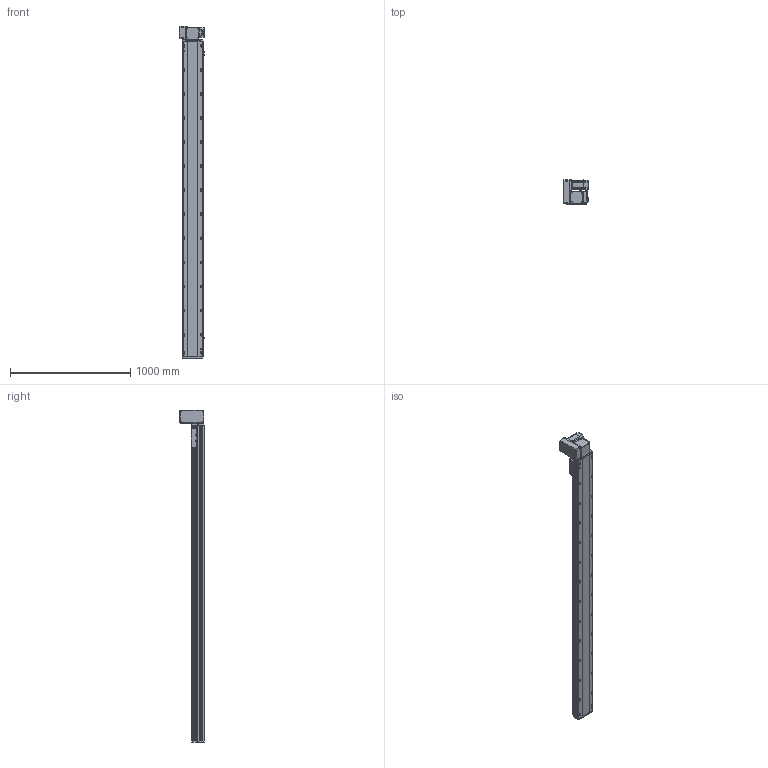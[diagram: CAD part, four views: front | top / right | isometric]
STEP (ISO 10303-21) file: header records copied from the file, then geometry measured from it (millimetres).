
FILE_DESCRIPTION (( 'STEP AP214' ), '1' );
FILE_NAME ('RTB17S-XX-2350-LW-M75-C4.STEP', '2025-12-12T01:12:38', ( '' ), ( '' ), 'SwSTEP 2.0', 'SolidWorks 2018', '' );
FILE_SCHEMA (( 'AUTOMOTIVE_DESIGN' ));
Length unit declared in the file: millimetre
Products named in the file (15): RTB22S-GY-018P^RTB17S-LW-々湍釱蚾饜-750W_RTB17S-XX-XX-LW-M75-C4; RTB17S-LW-々湍釱蚾饜-750W^RTB17S-XX-XX-LW-M75-C4; RTB17S-賑釱^RTB17S-XX-XX-LW-M75-C4; RTB17S-L-014-T20-P75--々湍釱^RTB17S-LW-々湍釱蚾饜-750W_RTB17S-XX-XX-LW-M75-C4; RTB17S-L-001-耜醱啣^RTB17S-XX-XX-LW-M75-C4; RTB22S-GY-017P^RTB17S-LW-々湍釱蚾饜-750W_RTB17S-XX-XX-LW-M75-C4; 750W萇儂^RTB17S-XX-XX-LW-M75-C4; EE672^RTB17S-XX-XX-LW-M75-C4; RTB22S-GY-005P^RTB17S-LW-々湍釱蚾饜-750W_RTB17S-XX-XX-LW-M75-C4; RTB17S-L-007奻裔^RTB17S-XX-XX-LW-M75-C4; RTB17S-XX-2350-LW-M75-C4; RTB17S-L-004-賑釱^RTB17S-賑釱_RTB17S-XX-XX-LW-M75-C4; RTB17-R-011菁釱^RTB17S-XX-XX-LW-M75-C4; RTB22S-GY-008-M75--萇儂啣^RTB17S-LW-々湍釱蚾饜-750W_RTB17S-XX-XX-LW-M75-C4; RTH13-BL-012覜茼え俋离^RTB17S-賑釱_RTB17S-XX-XX-LW-M75-C4
Assembly tree (17 placements, depth 3):
  RTB17S-XX-2350-LW-M75-C4
    RTB17-R-011菁釱^RTB17S-XX-XX-LW-M75-C4
    EE672^RTB17S-XX-XX-LW-M75-C4  x3
    RTB17S-L-001-耜醱啣^RTB17S-XX-XX-LW-M75-C4
    RTB17S-賑釱^RTB17S-XX-XX-LW-M75-C4
      RTB17S-L-004-賑釱^RTB17S-賑釱_RTB17S-XX-XX-LW-M75-C4
      RTH13-BL-012覜茼え俋离^RTB17S-賑釱_RTB17S-XX-XX-LW-M75-C4
    RTB17S-L-007奻裔^RTB17S-XX-XX-LW-M75-C4
    750W萇儂^RTB17S-XX-XX-LW-M75-C4
    RTB17S-LW-々湍釱蚾饜-750W^RTB17S-XX-XX-LW-M75-C4
      RTB17S-L-014-T20-P75--々湍釱^RTB17S-LW-々湍釱蚾饜-750W_RTB17S-XX-XX-LW-M75-C4
      RTB22S-GY-005P^RTB17S-LW-々湍釱蚾饜-750W_RTB17S-XX-XX-LW-M75-C4
      RTB22S-GY-017P^RTB17S-LW-々湍釱蚾饜-750W_RTB17S-XX-XX-LW-M75-C4  x2
      RTB22S-GY-008-M75--萇儂啣^RTB17S-LW-々湍釱蚾饜-750W_RTB17S-XX-XX-LW-M75-C4
      RTB22S-GY-018P^RTB17S-LW-々湍釱蚾饜-750W_RTB17S-XX-XX-LW-M75-C4
Bounding box: 210.4 x 201.5 x 2757.5 mm (x, y, z)
Volume: 20640203.5 mm3; surface area: 3729163.5 mm2
Topology: 17 solids, 17 shells, 2201 faces, 6160 edges, 3986 vertices
Faces by surface type: plane 984, cylinder 801, bspline 294, cone 110, sphere 8, torus 4
Entity records: 63478 total; most frequent: CARTESIAN_POINT 18824, ORIENTED_EDGE 9164, DIRECTION 8492, EDGE_CURVE 4582, AXIS2_PLACEMENT_3D 3006, VERTEX_POINT 2990, LINE 2480, VECTOR 2480
